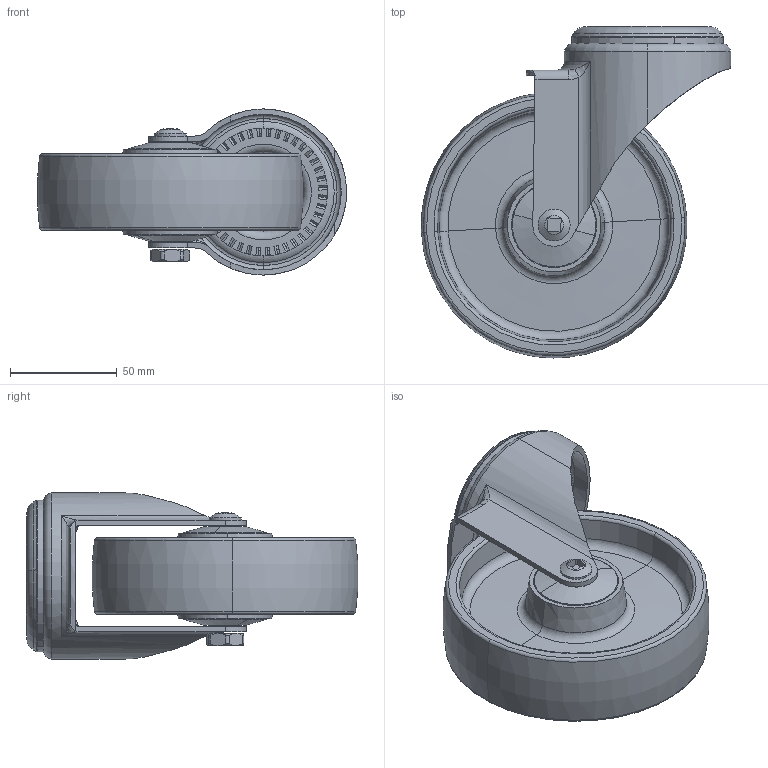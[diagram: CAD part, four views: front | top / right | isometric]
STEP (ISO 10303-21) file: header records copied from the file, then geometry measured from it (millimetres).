
FILE_DESCRIPTION (( 'STEP AP203' ), '1' );
FILE_NAME ('400222_STEP.STEP', '2011-08-26T10:36:28', ( '' ), ( '' ), 'SwSTEP 2.0', 'SolidWorks 2011', '' );
FILE_SCHEMA (( 'CONFIG_CONTROL_DESIGN' ));
Length unit declared in the file: millimetre
Products named in the file (1): 400222_STEP
Bounding box: 145.11 x 155.78 x 78 mm (x, y, z)
Surface area: 89883.9 mm2 (no closed solid volume)
Topology: 0 solids, 14 shells, 258 faces, 825 edges, 542 vertices
Faces by surface type: plane 112, cylinder 56, torus 46, cone 36, bspline 8
Entity records: 9881 total; most frequent: CARTESIAN_POINT 2859, DIRECTION 1443, ORIENTED_EDGE 1429, EDGE_CURVE 821, AXIS2_PLACEMENT_3D 549, VERTEX_POINT 542, LINE 345, VECTOR 345
